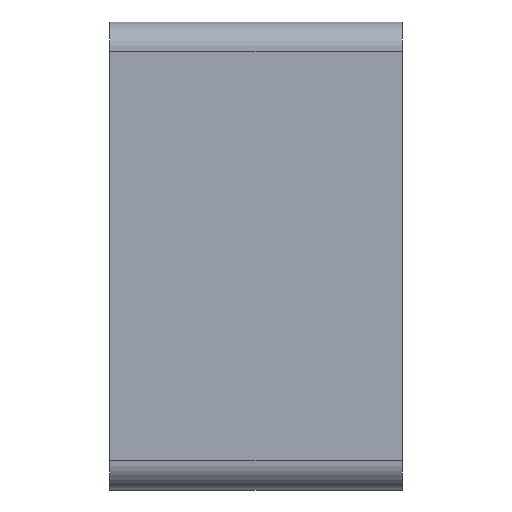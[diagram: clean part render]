
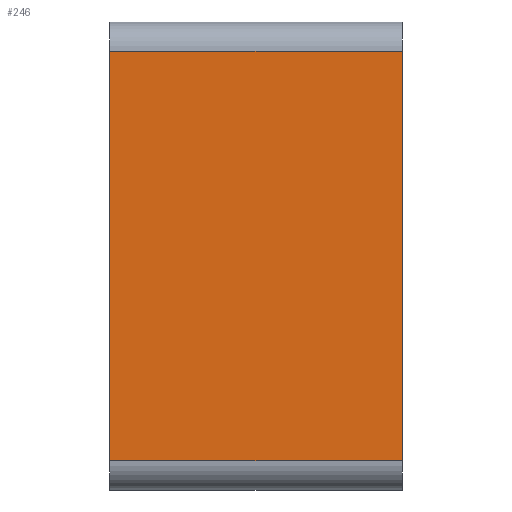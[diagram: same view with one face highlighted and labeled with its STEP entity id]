
A CAD part, left-side view. The second image highlights one B-rep face of the part: STEP entity #246.
In plain terms, the highlighted planar face has unit normal (-1, 0, 0).
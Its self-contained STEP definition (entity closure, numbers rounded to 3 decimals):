
#246=ADVANCED_FACE('',(#476),#477,.T.);
#476=FACE_OUTER_BOUND('',#691,.T.);
#477=PLANE('',#692);
#691=EDGE_LOOP('',(#1273,#1274,#1275,#1276));
#692=AXIS2_PLACEMENT_3D('',#1277,#1278,#1279);
#1273=ORIENTED_EDGE('',*,*,#1606,.T.);
#1274=ORIENTED_EDGE('',*,*,#1588,.F.);
#1275=ORIENTED_EDGE('',*,*,#1478,.T.);
#1276=ORIENTED_EDGE('',*,*,#1604,.T.);
#1277=CARTESIAN_POINT('',(-9.0,10.0,0.0));
#1278=DIRECTION('',(-1.0,0.0,0.0));
#1279=DIRECTION('',(0.0,0.0,-1.0));
#1478=EDGE_CURVE('',#1803,#1801,#1804,.T.);
#1588=EDGE_CURVE('',#1803,#1967,#1971,.T.);
#1604=EDGE_CURVE('',#1801,#1989,#1991,.T.);
#1606=EDGE_CURVE('',#1989,#1967,#1993,.T.);
#1801=VERTEX_POINT('',#2247);
#1803=VERTEX_POINT('',#2249);
#1804=LINE('',#2250,#2251);
#1967=VERTEX_POINT('',#2468);
#1971=LINE('',#2473,#2474);
#1989=VERTEX_POINT('',#2498);
#1991=LINE('',#2500,#2501);
#1993=LINE('',#2503,#2504);
#2247=CARTESIAN_POINT('',(-9.0,10.0,-14.0));
#2249=CARTESIAN_POINT('',(-9.0,10.0,14.0));
#2250=CARTESIAN_POINT('',(-9.0,10.0,14.0));
#2251=VECTOR('',#2677,1.0);
#2468=CARTESIAN_POINT('',(-9.0,-10.0,14.0));
#2473=CARTESIAN_POINT('',(-9.0,10.0,14.0));
#2474=VECTOR('',#2817,1.0);
#2498=CARTESIAN_POINT('',(-9.0,-10.0,-14.0));
#2500=CARTESIAN_POINT('',(-9.0,10.0,-14.0));
#2501=VECTOR('',#2833,1.0);
#2503=CARTESIAN_POINT('',(-9.0,-10.0,14.0));
#2504=VECTOR('',#2834,1.0);
#2677=DIRECTION('',(0.0,0.0,-1.0));
#2817=DIRECTION('',(0.0,-1.0,0.0));
#2833=DIRECTION('',(0.0,-1.0,0.0));
#2834=DIRECTION('',(0.0,0.0,1.0));
